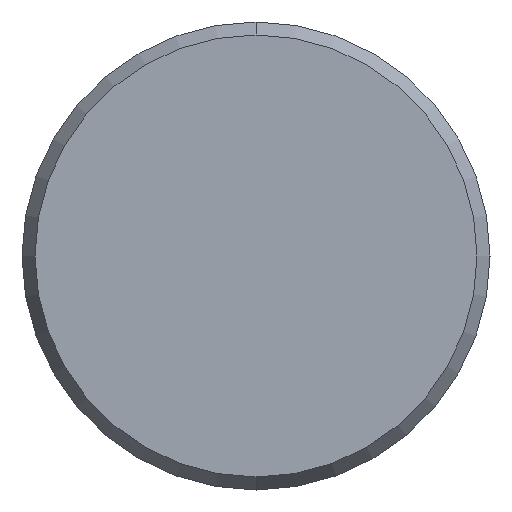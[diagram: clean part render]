
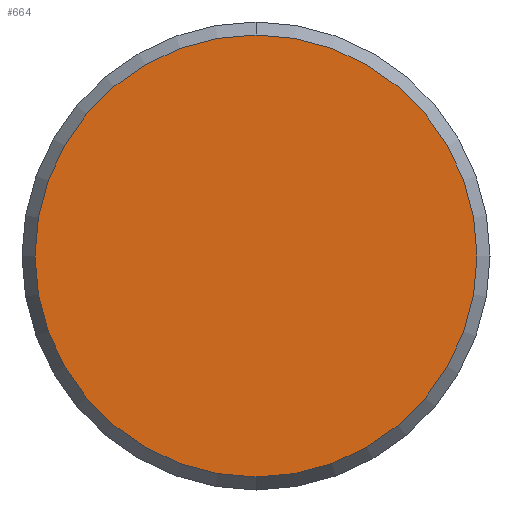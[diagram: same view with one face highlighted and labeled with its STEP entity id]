
A CAD part, front view. The second image highlights one B-rep face of the part: STEP entity #664.
In plain terms, the highlighted planar face has unit normal (0, -1, 0).
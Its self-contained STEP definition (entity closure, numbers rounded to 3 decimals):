
#7 = EDGE_CURVE ( 'NONE', #1068, #431, #1005, .T. ) ;
#22 = ORIENTED_EDGE ( 'NONE', *, *, #1275, .T. ) ;
#113 = ORIENTED_EDGE ( 'NONE', *, *, #7, .T. ) ;
#129 = CIRCLE ( 'NONE', #975, 85. ) ;
#148 = EDGE_LOOP ( 'NONE', ( #113, #22 ) ) ;
#166 = DIRECTION ( 'NONE',  ( 0., -1., 0. ) ) ;
#178 = DIRECTION ( 'NONE',  ( 0., 0., -1. ) ) ;
#222 = PLANE ( 'NONE',  #521 ) ;
#248 = CARTESIAN_POINT ( 'NONE',  ( 0., -1000., -85. ) ) ;
#327 = FACE_OUTER_BOUND ( 'NONE', #148, .T. ) ;
#364 = AXIS2_PLACEMENT_3D ( 'NONE', #657, #759, #467 ) ;
#366 = CARTESIAN_POINT ( 'NONE',  ( 0., -1000., 0. ) ) ;
#417 = DIRECTION ( 'NONE',  ( 0., 1., 0. ) ) ;
#431 = VERTEX_POINT ( 'NONE', #248 ) ;
#467 = DIRECTION ( 'NONE',  ( 0., 0., -1. ) ) ;
#521 = AXIS2_PLACEMENT_3D ( 'NONE', #994, #417, #1099 ) ;
#657 = CARTESIAN_POINT ( 'NONE',  ( 0., -1000., 0. ) ) ;
#664 = ADVANCED_FACE ( 'NONE', ( #327 ), #222, .F. ) ;
#759 = DIRECTION ( 'NONE',  ( 0., -1., 0. ) ) ;
#975 = AXIS2_PLACEMENT_3D ( 'NONE', #366, #166, #178 ) ;
#994 = CARTESIAN_POINT ( 'NONE',  ( -85., -1000., 0. ) ) ;
#1005 = CIRCLE ( 'NONE', #364, 85. ) ;
#1068 = VERTEX_POINT ( 'NONE', #1208 ) ;
#1099 = DIRECTION ( 'NONE',  ( 0., 0., 1. ) ) ;
#1208 = CARTESIAN_POINT ( 'NONE',  ( 0., -1000., 85. ) ) ;
#1275 = EDGE_CURVE ( 'NONE', #431, #1068, #129, .T. ) ;
